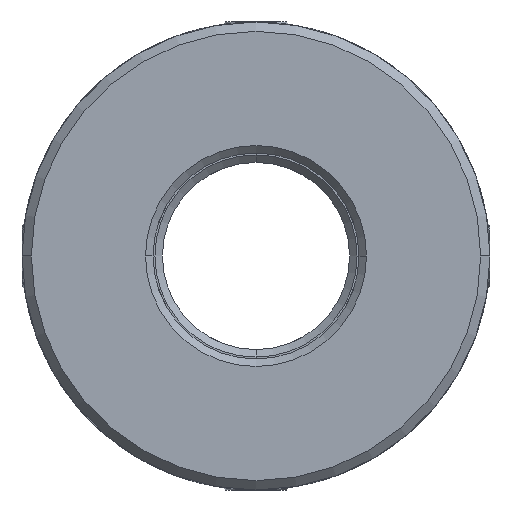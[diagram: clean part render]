
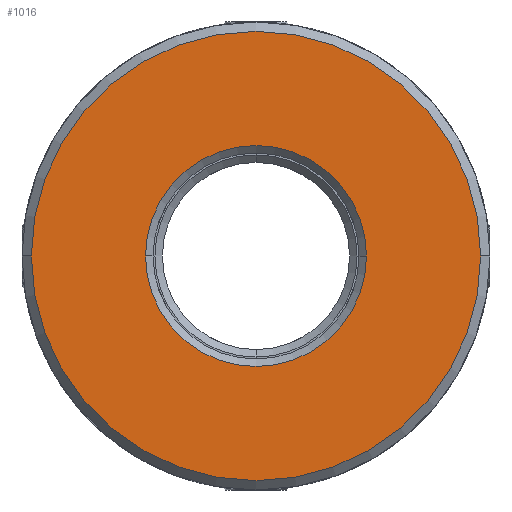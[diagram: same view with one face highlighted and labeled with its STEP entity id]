
A CAD part, front view. The second image highlights one B-rep face of the part: STEP entity #1016.
In plain terms, the highlighted planar face has unit normal (0, -1, 0).
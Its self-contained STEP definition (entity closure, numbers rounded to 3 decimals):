
#28 = DIRECTION ( 'NONE',  ( 0., -1., 0. ) ) ;
#77 = CARTESIAN_POINT ( 'NONE',  ( -19.597, -28., -50. ) ) ;
#338 = VERTEX_POINT ( 'NONE', #5447 ) ;
#423 = VERTEX_POINT ( 'NONE', #6938 ) ;
#424 = DIRECTION ( 'NONE',  ( -1., 0., 0. ) ) ;
#770 = DIRECTION ( 'NONE',  ( 0., 1., 0. ) ) ;
#795 = DIRECTION ( 'NONE',  ( -1., 0., 0. ) ) ;
#1016 = ADVANCED_FACE ( 'NONE', ( #1898, #7537 ), #1065, .F. ) ;
#1065 = PLANE ( 'NONE',  #3568 ) ;
#1120 = ORIENTED_EDGE ( 'NONE', *, *, #4044, .T. ) ;
#1311 = EDGE_CURVE ( 'NONE', #338, #9489, #1655, .T. ) ;
#1347 = AXIS2_PLACEMENT_3D ( 'NONE', #1582, #28, #3077 ) ;
#1582 = CARTESIAN_POINT ( 'NONE',  ( 0., -28., 0. ) ) ;
#1655 = CIRCLE ( 'NONE', #1347, 12. ) ;
#1898 = FACE_OUTER_BOUND ( 'NONE', #4555, .T. ) ;
#1934 = DIRECTION ( 'NONE',  ( -1., 0., 0. ) ) ;
#2458 = DIRECTION ( 'NONE',  ( -1., 0., 0. ) ) ;
#2493 = CARTESIAN_POINT ( 'NONE',  ( 0., -28., 0. ) ) ;
#2668 = AXIS2_PLACEMENT_3D ( 'NONE', #6070, #770, #795 ) ;
#3077 = DIRECTION ( 'NONE',  ( -1., 0., 0. ) ) ;
#3255 = AXIS2_PLACEMENT_3D ( 'NONE', #2493, #6284, #2458 ) ;
#3436 = AXIS2_PLACEMENT_3D ( 'NONE', #6355, #9518, #424 ) ;
#3568 = AXIS2_PLACEMENT_3D ( 'NONE', #77, #5730, #1934 ) ;
#3984 = ORIENTED_EDGE ( 'NONE', *, *, #7790, .T. ) ;
#4044 = EDGE_CURVE ( 'NONE', #6542, #423, #5601, .T. ) ;
#4555 = EDGE_LOOP ( 'NONE', ( #3984, #4590 ) ) ;
#4590 = ORIENTED_EDGE ( 'NONE', *, *, #1311, .T. ) ;
#4663 = EDGE_LOOP ( 'NONE', ( #1120, #8894 ) ) ;
#5447 = CARTESIAN_POINT ( 'NONE',  ( 12., -28., 0. ) ) ;
#5579 = CIRCLE ( 'NONE', #3436, 5.9 ) ;
#5601 = CIRCLE ( 'NONE', #2668, 5.9 ) ;
#5730 = DIRECTION ( 'NONE',  ( 0., 1., 0. ) ) ;
#6070 = CARTESIAN_POINT ( 'NONE',  ( 0., -28., 0. ) ) ;
#6284 = DIRECTION ( 'NONE',  ( 0., -1., 0. ) ) ;
#6355 = CARTESIAN_POINT ( 'NONE',  ( 0., -28., 0. ) ) ;
#6363 = CIRCLE ( 'NONE', #3255, 12. ) ;
#6542 = VERTEX_POINT ( 'NONE', #7140 ) ;
#6938 = CARTESIAN_POINT ( 'NONE',  ( -5.9, -28., 0. ) ) ;
#7140 = CARTESIAN_POINT ( 'NONE',  ( 5.9, -28., 0. ) ) ;
#7375 = CARTESIAN_POINT ( 'NONE',  ( -12., -28., 0. ) ) ;
#7537 = FACE_BOUND ( 'NONE', #4663, .T. ) ;
#7790 = EDGE_CURVE ( 'NONE', #9489, #338, #6363, .T. ) ;
#8292 = EDGE_CURVE ( 'NONE', #423, #6542, #5579, .T. ) ;
#8894 = ORIENTED_EDGE ( 'NONE', *, *, #8292, .T. ) ;
#9489 = VERTEX_POINT ( 'NONE', #7375 ) ;
#9518 = DIRECTION ( 'NONE',  ( 0., 1., 0. ) ) ;
